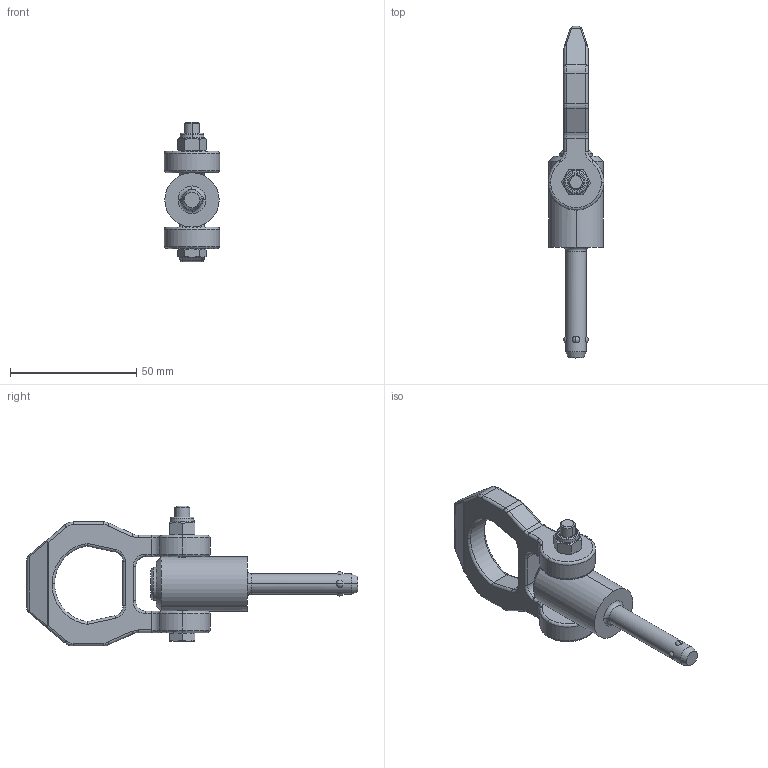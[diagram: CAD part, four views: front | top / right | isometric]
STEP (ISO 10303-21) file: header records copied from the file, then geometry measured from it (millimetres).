
FILE_DESCRIPTION (( 'STEP AP214' ), '1' );
FILE_NAME ('1130-8-35-NI.step', '2023-05-11T09:32:10', ( '' ), ( '' ), 'SwSTEP 2.0', 'SolidWorks 2022', '' );
FILE_SCHEMA (( 'AUTOMOTIVE_DESIGN' ));
Length unit declared in the file: millimetre
Products named in the file (3): Kopie von ring2^WB1130_NI; 1130-8-35-NI; Kopie von bolzen1^WB1130_NI_8-35-NI
Assembly tree (2 placements, depth 2):
  1130-8-35-NI
    Kopie von bolzen1^WB1130_NI_8-35-NI
    Kopie von ring2^WB1130_NI
Bounding box: 22 x 131.25 x 55.25 mm (x, y, z)
Volume: 34294.8 mm3; surface area: 12517.9 mm2
Topology: 2 solids, 2 shells, 248 faces, 611 edges, 375 vertices
Faces by surface type: plane 83, cylinder 77, bspline 48, cone 26, sphere 8, torus 6
Entity records: 9610 total; most frequent: CARTESIAN_POINT 4288, ORIENTED_EDGE 1222, DIRECTION 919, EDGE_CURVE 611, VERTEX_POINT 375, AXIS2_PLACEMENT_3D 345, EDGE_LOOP 262, ADVANCED_FACE 248
